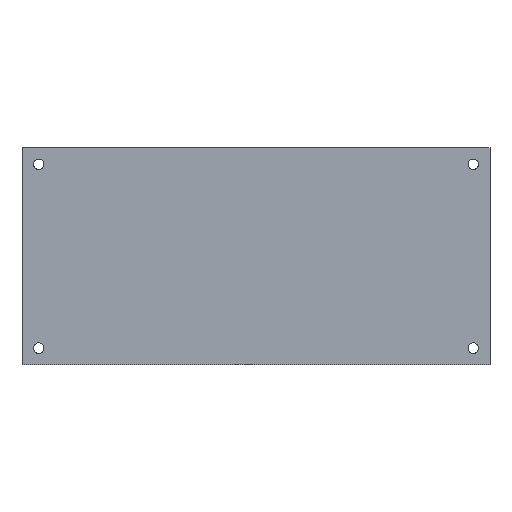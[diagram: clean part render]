
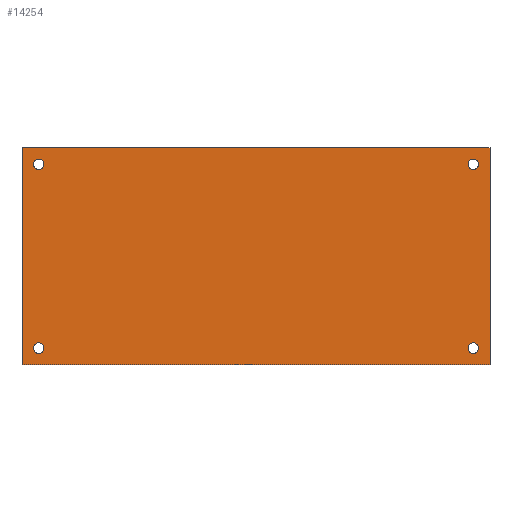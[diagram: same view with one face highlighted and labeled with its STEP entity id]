
A CAD part, front view. The second image highlights one B-rep face of the part: STEP entity #14254.
In plain terms, the highlighted planar face has unit normal (0, -1, 0).
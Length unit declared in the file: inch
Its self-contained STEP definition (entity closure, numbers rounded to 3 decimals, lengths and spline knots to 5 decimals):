
#56 = EDGE_LOOP ( 'NONE', ( #4352 ) ) ;
#2261 = FACE_BOUND ( 'NONE', #31446, .T. ) ;
#2501 = PLANE ( 'NONE',  #17905 ) ;
#3858 = VECTOR ( 'NONE', #21639, 39.37008 ) ;
#4352 = ORIENTED_EDGE ( 'NONE', *, *, #9000, .F. ) ;
#4552 = VERTEX_POINT ( 'NONE', #12622 ) ;
#4748 = ORIENTED_EDGE ( 'NONE', *, *, #20174, .F. ) ;
#5077 = CARTESIAN_POINT ( 'NONE',  ( 3.25, 0., -1.45312 ) ) ;
#5717 = EDGE_LOOP ( 'NONE', ( #46815, #22774, #4748, #39067 ) ) ;
#5746 = CARTESIAN_POINT ( 'NONE',  ( 3.25, 0., -1.375 ) ) ;
#7703 = VECTOR ( 'NONE', #10898, 39.37008 ) ;
#7878 = AXIS2_PLACEMENT_3D ( 'NONE', #39813, #8810, #21029 ) ;
#8180 = LINE ( 'NONE', #23383, #44821 ) ;
#8488 = DIRECTION ( 'NONE',  ( 0., 0., -1. ) ) ;
#8761 = VERTEX_POINT ( 'NONE', #22607 ) ;
#8810 = DIRECTION ( 'NONE',  ( 0., -1., 0. ) ) ;
#8833 = VERTEX_POINT ( 'NONE', #5077 ) ;
#9000 = EDGE_CURVE ( 'NONE', #35011, #35011, #34699, .T. ) ;
#9387 = CIRCLE ( 'NONE', #15755, 0.07812 ) ;
#10269 = FACE_BOUND ( 'NONE', #18555, .T. ) ;
#10861 = DIRECTION ( 'NONE',  ( 0., 0., -1. ) ) ;
#10898 = DIRECTION ( 'NONE',  ( 1., 0., 0. ) ) ;
#11208 = VERTEX_POINT ( 'NONE', #39572 ) ;
#12411 = VERTEX_POINT ( 'NONE', #30971 ) ;
#12622 = CARTESIAN_POINT ( 'NONE',  ( -3.5, 0., -1.625 ) ) ;
#13155 = LINE ( 'NONE', #26077, #7703 ) ;
#13175 = DIRECTION ( 'NONE',  ( 0., 0., -1. ) ) ;
#13490 = DIRECTION ( 'NONE',  ( 0., -1., 0. ) ) ;
#14212 = DIRECTION ( 'NONE',  ( 0., -1., 0. ) ) ;
#14254 = ADVANCED_FACE ( 'NONE', ( #2261, #47733, #10269, #36573, #25182 ), #2501, .F. ) ;
#15228 = AXIS2_PLACEMENT_3D ( 'NONE', #5746, #13490, #8488 ) ;
#15245 = DIRECTION ( 'NONE',  ( 0., 1., 0. ) ) ;
#15755 = AXIS2_PLACEMENT_3D ( 'NONE', #25144, #14212, #37022 ) ;
#17902 = CARTESIAN_POINT ( 'NONE',  ( -3.5, 0., -1.625 ) ) ;
#17905 = AXIS2_PLACEMENT_3D ( 'NONE', #45436, #15245, #33343 ) ;
#18335 = CARTESIAN_POINT ( 'NONE',  ( -3.25, 0., -1.375 ) ) ;
#18555 = EDGE_LOOP ( 'NONE', ( #44380 ) ) ;
#19170 = CIRCLE ( 'NONE', #15228, 0.07812 ) ;
#19759 = CARTESIAN_POINT ( 'NONE',  ( -3.5, 0., -1.625 ) ) ;
#20174 = EDGE_CURVE ( 'NONE', #12411, #11208, #8180, .T. ) ;
#21029 = DIRECTION ( 'NONE',  ( 0., 0., -1. ) ) ;
#21639 = DIRECTION ( 'NONE',  ( -1., 0., 0. ) ) ;
#22607 = CARTESIAN_POINT ( 'NONE',  ( -3.5, 0., 1.625 ) ) ;
#22774 = ORIENTED_EDGE ( 'NONE', *, *, #23812, .F. ) ;
#23383 = CARTESIAN_POINT ( 'NONE',  ( 3.5, 0., -1.625 ) ) ;
#23812 = EDGE_CURVE ( 'NONE', #11208, #4552, #40435, .T. ) ;
#25050 = DIRECTION ( 'NONE',  ( 0., -1., 0. ) ) ;
#25144 = CARTESIAN_POINT ( 'NONE',  ( 3.25, 0., 1.375 ) ) ;
#25182 = FACE_OUTER_BOUND ( 'NONE', #5717, .T. ) ;
#25309 = EDGE_CURVE ( 'NONE', #8833, #8833, #19170, .T. ) ;
#26077 = CARTESIAN_POINT ( 'NONE',  ( -3.5, 0., 1.625 ) ) ;
#26600 = EDGE_CURVE ( 'NONE', #8761, #12411, #13155, .T. ) ;
#26736 = VECTOR ( 'NONE', #41522, 39.37008 ) ;
#27117 = CARTESIAN_POINT ( 'NONE',  ( -3.25, 0., -1.45312 ) ) ;
#27493 = EDGE_LOOP ( 'NONE', ( #42278 ) ) ;
#28469 = CARTESIAN_POINT ( 'NONE',  ( 3.25, 0., 1.29688 ) ) ;
#29325 = CIRCLE ( 'NONE', #7878, 0.07812 ) ;
#30919 = ORIENTED_EDGE ( 'NONE', *, *, #43178, .F. ) ;
#30971 = CARTESIAN_POINT ( 'NONE',  ( 3.5, 0., 1.625 ) ) ;
#31446 = EDGE_LOOP ( 'NONE', ( #30919 ) ) ;
#33343 = DIRECTION ( 'NONE',  ( 0., 0., 1. ) ) ;
#34382 = LINE ( 'NONE', #19759, #26736 ) ;
#34699 = CIRCLE ( 'NONE', #41761, 0.07812 ) ;
#35011 = VERTEX_POINT ( 'NONE', #27117 ) ;
#36573 = FACE_BOUND ( 'NONE', #27493, .T. ) ;
#37022 = DIRECTION ( 'NONE',  ( 0., 0., -1. ) ) ;
#39067 = ORIENTED_EDGE ( 'NONE', *, *, #26600, .F. ) ;
#39572 = CARTESIAN_POINT ( 'NONE',  ( 3.5, 0., -1.625 ) ) ;
#39813 = CARTESIAN_POINT ( 'NONE',  ( -3.25, 0., 1.375 ) ) ;
#40157 = EDGE_CURVE ( 'NONE', #4552, #8761, #34382, .T. ) ;
#40340 = CARTESIAN_POINT ( 'NONE',  ( -3.25, 0., 1.29688 ) ) ;
#40435 = LINE ( 'NONE', #17902, #3858 ) ;
#41522 = DIRECTION ( 'NONE',  ( 0., 0., 1. ) ) ;
#41761 = AXIS2_PLACEMENT_3D ( 'NONE', #18335, #25050, #10861 ) ;
#42278 = ORIENTED_EDGE ( 'NONE', *, *, #25309, .F. ) ;
#43178 = EDGE_CURVE ( 'NONE', #47811, #47811, #29325, .T. ) ;
#44380 = ORIENTED_EDGE ( 'NONE', *, *, #46355, .F. ) ;
#44821 = VECTOR ( 'NONE', #13175, 39.37008 ) ;
#45436 = CARTESIAN_POINT ( 'NONE',  ( 0., 0., 0. ) ) ;
#46355 = EDGE_CURVE ( 'NONE', #48533, #48533, #9387, .T. ) ;
#46815 = ORIENTED_EDGE ( 'NONE', *, *, #40157, .F. ) ;
#47733 = FACE_BOUND ( 'NONE', #56, .T. ) ;
#47811 = VERTEX_POINT ( 'NONE', #40340 ) ;
#48533 = VERTEX_POINT ( 'NONE', #28469 ) ;
